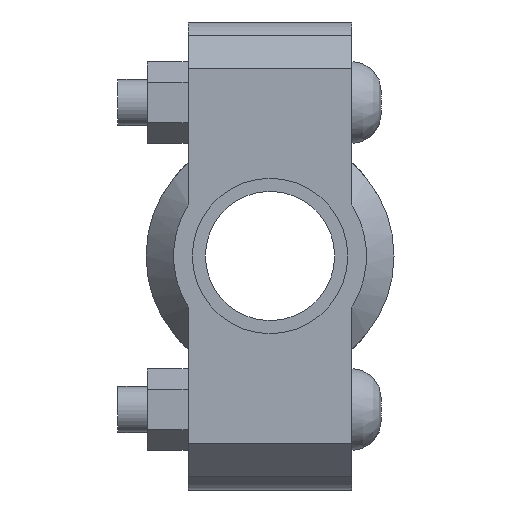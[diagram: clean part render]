
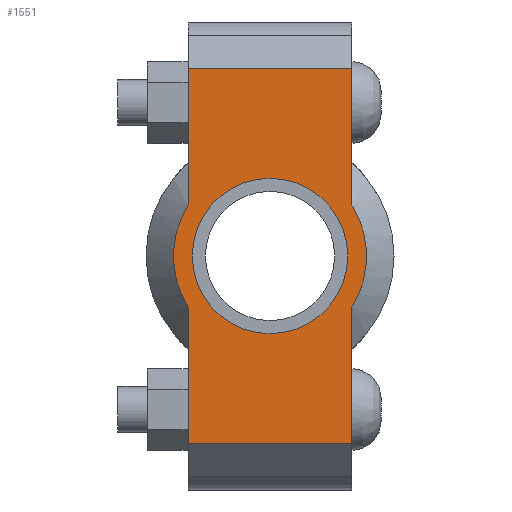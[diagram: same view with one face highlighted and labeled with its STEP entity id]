
A CAD part, left-side view. The second image highlights one B-rep face of the part: STEP entity #1551.
In plain terms, the highlighted planar face has unit normal (-1, 0, 0) as drawn and (0, 0, 1) by its records, which use the part's own axes.
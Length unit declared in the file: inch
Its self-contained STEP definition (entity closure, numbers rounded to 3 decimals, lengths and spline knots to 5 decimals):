
#162=LINE('',#2665,#257);
#177=LINE('',#2724,#272);
#185=LINE('',#2754,#280);
#187=LINE('',#2757,#282);
#188=LINE('',#2762,#283);
#189=LINE('',#2763,#284);
#257=VECTOR('',#2151,0.3937);
#272=VECTOR('',#2186,0.3937);
#280=VECTOR('',#2206,0.3937);
#282=VECTOR('',#2210,0.3937);
#283=VECTOR('',#2215,0.3937);
#284=VECTOR('',#2216,0.3937);
#344=FACE_BOUND('',#503,.T.);
#404=FACE_OUTER_BOUND('',#502,.T.);
#502=EDGE_LOOP('',(#1246,#1247,#1248,#1249,#1250,#1251,#1252,#1253));
#503=EDGE_LOOP('',(#1254));
#608=CIRCLE('',#1814,1.031);
#609=CIRCLE('',#1815,1.031);
#610=CIRCLE('',#1816,0.83);
#717=VERTEX_POINT('',#2662);
#718=VERTEX_POINT('',#2664);
#739=VERTEX_POINT('',#2719);
#740=VERTEX_POINT('',#2723);
#749=VERTEX_POINT('',#2749);
#750=VERTEX_POINT('',#2753);
#751=VERTEX_POINT('',#2759);
#752=VERTEX_POINT('',#2761);
#753=VERTEX_POINT('',#2765);
#887=EDGE_CURVE('',#718,#717,#162,.T.);
#912=EDGE_CURVE('',#740,#739,#177,.T.);
#925=EDGE_CURVE('',#750,#749,#185,.T.);
#927=EDGE_CURVE('',#750,#717,#187,.T.);
#928=EDGE_CURVE('',#749,#751,#608,.T.);
#929=EDGE_CURVE('',#751,#752,#188,.T.);
#930=EDGE_CURVE('',#740,#752,#189,.T.);
#931=EDGE_CURVE('',#739,#718,#609,.T.);
#932=EDGE_CURVE('',#753,#753,#610,.T.);
#1246=ORIENTED_EDGE('',*,*,#927,.F.);
#1247=ORIENTED_EDGE('',*,*,#925,.T.);
#1248=ORIENTED_EDGE('',*,*,#928,.T.);
#1249=ORIENTED_EDGE('',*,*,#929,.T.);
#1250=ORIENTED_EDGE('',*,*,#930,.F.);
#1251=ORIENTED_EDGE('',*,*,#912,.T.);
#1252=ORIENTED_EDGE('',*,*,#931,.T.);
#1253=ORIENTED_EDGE('',*,*,#887,.T.);
#1254=ORIENTED_EDGE('',*,*,#932,.T.);
#1403=PLANE('',#1813);
#1551=ADVANCED_FACE('',(#404,#344),#1403,.T.);
#1813=AXIS2_PLACEMENT_3D('',#2758,#2211,#2212);
#1814=AXIS2_PLACEMENT_3D('',#2760,#2213,#2214);
#1815=AXIS2_PLACEMENT_3D('',#2764,#2217,#2218);
#1816=AXIS2_PLACEMENT_3D('',#2766,#2219,#2220);
#2151=DIRECTION('',(1.,0.,0.));
#2186=DIRECTION('',(1.,0.,0.));
#2206=DIRECTION('',(-1.,0.,0.));
#2210=DIRECTION('',(0.,-1.,0.));
#2211=DIRECTION('center_axis',(0.,0.,1.));
#2212=DIRECTION('ref_axis',(-1.,0.,0.));
#2213=DIRECTION('center_axis',(0.,0.,1.));
#2214=DIRECTION('ref_axis',(1.,0.,0.));
#2215=DIRECTION('',(-1.,0.,0.));
#2216=DIRECTION('',(0.,1.,0.));
#2217=DIRECTION('center_axis',(0.,0.,1.));
#2218=DIRECTION('ref_axis',(1.,0.,0.));
#2219=DIRECTION('center_axis',(0.,0.,-1.));
#2220=DIRECTION('ref_axis',(1.,0.,0.));
#2662=CARTESIAN_POINT('',(2.,-0.875,0.94));
#2664=CARTESIAN_POINT('',(0.54529,-0.875,0.94));
#2665=CARTESIAN_POINT('',(-2.5,-0.875,0.94));
#2719=CARTESIAN_POINT('',(-0.54529,-0.875,0.94));
#2723=CARTESIAN_POINT('',(-2.,-0.875,0.94));
#2724=CARTESIAN_POINT('',(-2.5,-0.875,0.94));
#2749=CARTESIAN_POINT('',(0.54529,0.875,0.94));
#2753=CARTESIAN_POINT('',(2.,0.875,0.94));
#2754=CARTESIAN_POINT('',(2.5,0.875,0.94));
#2757=CARTESIAN_POINT('',(2.,-0.4375,0.94));
#2758=CARTESIAN_POINT('Origin',(0.,0.,
0.94));
#2759=CARTESIAN_POINT('',(-0.54529,0.875,0.94));
#2760=CARTESIAN_POINT('Origin',(0.,0.,0.94));
#2761=CARTESIAN_POINT('',(-2.,0.875,0.94));
#2762=CARTESIAN_POINT('',(2.5,0.875,0.94));
#2763=CARTESIAN_POINT('',(-2.,0.4375,0.94));
#2764=CARTESIAN_POINT('Origin',(0.,0.,0.94));
#2765=CARTESIAN_POINT('',(-0.83,0.,0.94));
#2766=CARTESIAN_POINT('Origin',(0.,0.,0.94));
